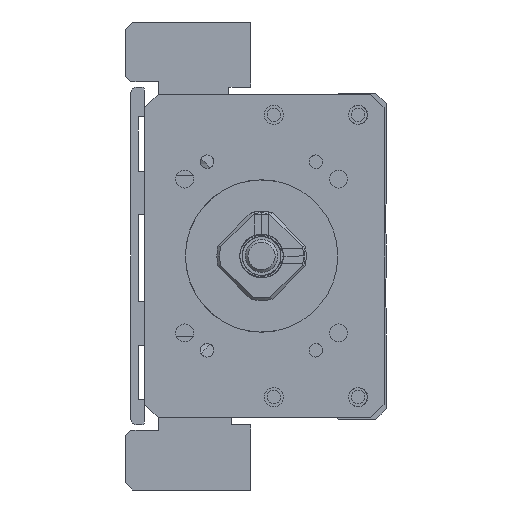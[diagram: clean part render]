
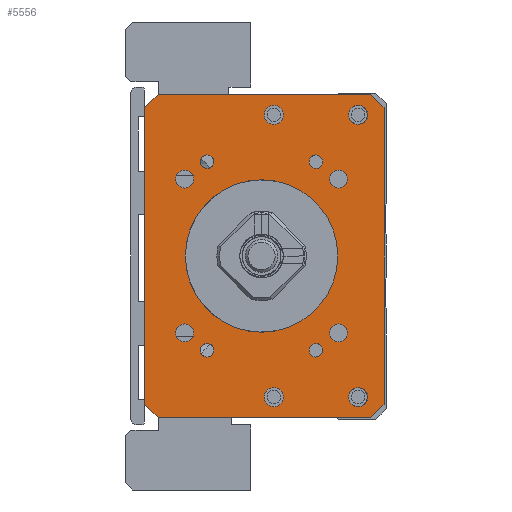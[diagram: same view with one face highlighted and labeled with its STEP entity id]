
A CAD part, left-side view. The second image highlights one B-rep face of the part: STEP entity #5556.
In plain terms, the highlighted planar face has unit normal (-1, 0, 0).
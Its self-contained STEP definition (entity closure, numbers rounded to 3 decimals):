
#5556=ADVANCED_FACE('',(#8873,#8874,#8875,#8876,#8877,#8878,#8879,#8880,
#8881,#8882,#8883,#8884,#8885,#8886),#6334,.F.);
#6334=PLANE('',#17718);
#6885=LINE('',#22967,#7902);
#6887=LINE('',#22991,#7904);
#6888=LINE('',#22993,#7905);
#6889=LINE('',#22995,#7906);
#6890=LINE('',#22997,#7907);
#6891=LINE('',#22999,#7908);
#6892=LINE('',#23001,#7909);
#6893=LINE('',#23003,#7910);
#7902=VECTOR('',#19271,1.);
#7904=VECTOR('',#19295,1.);
#7905=VECTOR('',#19296,1.);
#7906=VECTOR('',#19297,1.);
#7907=VECTOR('',#19298,1.);
#7908=VECTOR('',#19299,1.);
#7909=VECTOR('',#19300,1.);
#7910=VECTOR('',#19301,1.);
#8873=FACE_BOUND('',#9577,.T.);
#8874=FACE_BOUND('',#9578,.T.);
#8875=FACE_BOUND('',#9579,.T.);
#8876=FACE_BOUND('',#9580,.T.);
#8877=FACE_BOUND('',#9581,.T.);
#8878=FACE_BOUND('',#9582,.T.);
#8879=FACE_BOUND('',#9583,.T.);
#8880=FACE_BOUND('',#9584,.T.);
#8881=FACE_BOUND('',#9585,.T.);
#8882=FACE_BOUND('',#9586,.T.);
#8883=FACE_BOUND('',#9587,.T.);
#8884=FACE_BOUND('',#9588,.T.);
#8885=FACE_BOUND('',#9589,.T.);
#8886=FACE_BOUND('',#9590,.T.);
#9577=EDGE_LOOP('',(#10992));
#9578=EDGE_LOOP('',(#10993));
#9579=EDGE_LOOP('',(#10994));
#9580=EDGE_LOOP('',(#10995));
#9581=EDGE_LOOP('',(#10996));
#9582=EDGE_LOOP('',(#10997));
#9583=EDGE_LOOP('',(#10998));
#9584=EDGE_LOOP('',(#10999));
#9585=EDGE_LOOP('',(#11000));
#9586=EDGE_LOOP('',(#11001,#11002,#11003,#11004,#11005,#11006,#11007,#11008));
#9587=EDGE_LOOP('',(#11009));
#9588=EDGE_LOOP('',(#11010));
#9589=EDGE_LOOP('',(#11011));
#9590=EDGE_LOOP('',(#11012));
#10992=ORIENTED_EDGE('',*,*,#15549,.F.);
#10993=ORIENTED_EDGE('',*,*,#15550,.F.);
#10994=ORIENTED_EDGE('',*,*,#15551,.F.);
#10995=ORIENTED_EDGE('',*,*,#15552,.F.);
#10996=ORIENTED_EDGE('',*,*,#15553,.F.);
#10997=ORIENTED_EDGE('',*,*,#15554,.T.);
#10998=ORIENTED_EDGE('',*,*,#15555,.F.);
#10999=ORIENTED_EDGE('',*,*,#15556,.F.);
#11000=ORIENTED_EDGE('',*,*,#15557,.F.);
#11001=ORIENTED_EDGE('',*,*,#15546,.T.);
#11002=ORIENTED_EDGE('',*,*,#15558,.T.);
#11003=ORIENTED_EDGE('',*,*,#15559,.F.);
#11004=ORIENTED_EDGE('',*,*,#15560,.T.);
#11005=ORIENTED_EDGE('',*,*,#15561,.F.);
#11006=ORIENTED_EDGE('',*,*,#15562,.T.);
#11007=ORIENTED_EDGE('',*,*,#15563,.T.);
#11008=ORIENTED_EDGE('',*,*,#15564,.T.);
#11009=ORIENTED_EDGE('',*,*,#15565,.F.);
#11010=ORIENTED_EDGE('',*,*,#15566,.F.);
#11011=ORIENTED_EDGE('',*,*,#15567,.F.);
#11012=ORIENTED_EDGE('',*,*,#15526,.F.);
#14232=VERTEX_POINT('',#22906);
#14252=VERTEX_POINT('',#22966);
#14253=VERTEX_POINT('',#22968);
#14255=VERTEX_POINT('',#22974);
#14256=VERTEX_POINT('',#22976);
#14257=VERTEX_POINT('',#22978);
#14258=VERTEX_POINT('',#22980);
#14259=VERTEX_POINT('',#22982);
#14260=VERTEX_POINT('',#22984);
#14261=VERTEX_POINT('',#22986);
#14262=VERTEX_POINT('',#22988);
#14263=VERTEX_POINT('',#22990);
#14264=VERTEX_POINT('',#22992);
#14265=VERTEX_POINT('',#22994);
#14266=VERTEX_POINT('',#22996);
#14267=VERTEX_POINT('',#22998);
#14268=VERTEX_POINT('',#23000);
#14269=VERTEX_POINT('',#23002);
#14270=VERTEX_POINT('',#23005);
#14271=VERTEX_POINT('',#23007);
#14272=VERTEX_POINT('',#23009);
#15526=EDGE_CURVE('',#14232,#14232,#17138,.T.);
#15546=EDGE_CURVE('',#14253,#14252,#6885,.T.);
#15549=EDGE_CURVE('',#14255,#14255,#17147,.T.);
#15550=EDGE_CURVE('',#14256,#14256,#17148,.T.);
#15551=EDGE_CURVE('',#14257,#14257,#17149,.T.);
#15552=EDGE_CURVE('',#14258,#14258,#17150,.T.);
#15553=EDGE_CURVE('',#14259,#14259,#17151,.T.);
#15554=EDGE_CURVE('',#14260,#14260,#17152,.T.);
#15555=EDGE_CURVE('',#14261,#14261,#17153,.T.);
#15556=EDGE_CURVE('',#14262,#14262,#17154,.T.);
#15557=EDGE_CURVE('',#14263,#14263,#17155,.T.);
#15558=EDGE_CURVE('',#14252,#14264,#6887,.T.);
#15559=EDGE_CURVE('',#14265,#14264,#6888,.T.);
#15560=EDGE_CURVE('',#14265,#14266,#6889,.T.);
#15561=EDGE_CURVE('',#14267,#14266,#6890,.T.);
#15562=EDGE_CURVE('',#14267,#14268,#6891,.T.);
#15563=EDGE_CURVE('',#14268,#14269,#6892,.T.);
#15564=EDGE_CURVE('',#14269,#14253,#6893,.T.);
#15565=EDGE_CURVE('',#14270,#14270,#17156,.T.);
#15566=EDGE_CURVE('',#14271,#14271,#17157,.T.);
#15567=EDGE_CURVE('',#14272,#14272,#17158,.T.);
#17138=CIRCLE('',#17695,14.);
#17147=CIRCLE('',#17706,1.65);
#17148=CIRCLE('',#17707,1.65);
#17149=CIRCLE('',#17708,1.65);
#17150=CIRCLE('',#17709,1.65);
#17151=CIRCLE('',#17710,1.25);
#17152=CIRCLE('',#17711,1.75);
#17153=CIRCLE('',#17712,1.25);
#17154=CIRCLE('',#17713,1.75);
#17155=CIRCLE('',#17714,1.25);
#17156=CIRCLE('',#17715,1.75);
#17157=CIRCLE('',#17716,1.75);
#17158=CIRCLE('',#17717,1.25);
#17695=AXIS2_PLACEMENT_3D('',#22905,#19245,#19246);
#17706=AXIS2_PLACEMENT_3D('',#22973,#19277,#19278);
#17707=AXIS2_PLACEMENT_3D('',#22975,#19279,#19280);
#17708=AXIS2_PLACEMENT_3D('',#22977,#19281,#19282);
#17709=AXIS2_PLACEMENT_3D('',#22979,#19283,#19284);
#17710=AXIS2_PLACEMENT_3D('',#22981,#19285,#19286);
#17711=AXIS2_PLACEMENT_3D('',#22983,#19287,#19288);
#17712=AXIS2_PLACEMENT_3D('',#22985,#19289,#19290);
#17713=AXIS2_PLACEMENT_3D('',#22987,#19291,#19292);
#17714=AXIS2_PLACEMENT_3D('',#22989,#19293,#19294);
#17715=AXIS2_PLACEMENT_3D('',#23004,#19302,#19303);
#17716=AXIS2_PLACEMENT_3D('',#23006,#19304,#19305);
#17717=AXIS2_PLACEMENT_3D('',#23008,#19306,#19307);
#17718=AXIS2_PLACEMENT_3D('',#23010,#19308,#19309);
#19245=DIRECTION('',(-1.,0.,0.));
#19246=DIRECTION('',(0.,1.,0.));
#19271=DIRECTION('',(0.,0.,-1.));
#19277=DIRECTION('',(-1.,0.,0.));
#19278=DIRECTION('',(0.,0.,1.));
#19279=DIRECTION('',(-1.,0.,0.));
#19280=DIRECTION('',(0.,0.,1.));
#19281=DIRECTION('',(-1.,0.,0.));
#19282=DIRECTION('',(0.,0.,1.));
#19283=DIRECTION('',(-1.,0.,0.));
#19284=DIRECTION('',(0.,0.,1.));
#19285=DIRECTION('',(-1.,0.,0.));
#19286=DIRECTION('',(0.,1.,0.));
#19287=DIRECTION('',(1.,0.,0.));
#19288=DIRECTION('',(0.,0.,1.));
#19289=DIRECTION('',(-1.,0.,0.));
#19290=DIRECTION('',(0.,1.,0.));
#19291=DIRECTION('',(-1.,0.,0.));
#19292=DIRECTION('',(0.,0.,1.));
#19293=DIRECTION('',(-1.,0.,0.));
#19294=DIRECTION('',(0.,1.,0.));
#19295=DIRECTION('',(0.,-0.707,-0.707));
#19296=DIRECTION('',(0.,1.,0.));
#19297=DIRECTION('',(0.,-0.707,0.707));
#19298=DIRECTION('',(0.,0.,-1.));
#19299=DIRECTION('',(0.,0.707,0.707));
#19300=DIRECTION('',(0.,1.,0.));
#19301=DIRECTION('',(0.,0.707,-0.707));
#19302=DIRECTION('',(-1.,0.,0.));
#19303=DIRECTION('',(0.,0.,1.));
#19304=DIRECTION('',(-1.,0.,0.));
#19305=DIRECTION('',(0.,0.,1.));
#19306=DIRECTION('',(-1.,0.,0.));
#19307=DIRECTION('',(0.,1.,0.));
#19308=DIRECTION('',(1.,0.,0.));
#19309=DIRECTION('',(0.,1.,0.));
#22905=CARTESIAN_POINT('',(-211.,0.,0.));
#22906=CARTESIAN_POINT('',(-211.,14.,0.));
#22966=CARTESIAN_POINT('',(-211.,21.499,-27.25));
#22967=CARTESIAN_POINT('',(-211.,21.499,29.75));
#22968=CARTESIAN_POINT('',(-211.,21.499,27.25));
#22973=CARTESIAN_POINT('',(-211.,14.142,14.142));
#22974=CARTESIAN_POINT('',(-211.,14.142,15.792));
#22975=CARTESIAN_POINT('',(-211.,-14.142,14.142));
#22976=CARTESIAN_POINT('',(-211.,-14.142,15.792));
#22977=CARTESIAN_POINT('',(-211.,14.142,-14.142));
#22978=CARTESIAN_POINT('',(-211.,14.142,-12.492));
#22979=CARTESIAN_POINT('',(-211.,-14.142,-14.142));
#22980=CARTESIAN_POINT('',(-211.,-14.142,-12.492));
#22981=CARTESIAN_POINT('',(-211.,-10.,-17.321));
#22982=CARTESIAN_POINT('',(-211.,-8.75,-17.321));
#22983=CARTESIAN_POINT('',(-211.,-2.25,-25.936));
#22984=CARTESIAN_POINT('',(-211.,-2.25,-24.186));
#22985=CARTESIAN_POINT('',(-211.,10.,17.321));
#22986=CARTESIAN_POINT('',(-211.,11.25,17.321));
#22987=CARTESIAN_POINT('',(-211.,-2.25,25.936));
#22988=CARTESIAN_POINT('',(-211.,-2.25,27.686));
#22989=CARTESIAN_POINT('',(-211.,10.,-17.321));
#22990=CARTESIAN_POINT('',(-211.,11.25,-17.321));
#22991=CARTESIAN_POINT('',(-211.,18.999,-29.75));
#22992=CARTESIAN_POINT('',(-211.,18.999,-29.75));
#22993=CARTESIAN_POINT('',(-211.,-22.501,-29.75));
#22994=CARTESIAN_POINT('',(-211.,-20.001,-29.75));
#22995=CARTESIAN_POINT('',(-211.,-22.501,-27.25));
#22996=CARTESIAN_POINT('',(-211.,-22.501,-27.25));
#22997=CARTESIAN_POINT('',(-211.,-22.501,29.75));
#22998=CARTESIAN_POINT('',(-211.,-22.501,27.25));
#22999=CARTESIAN_POINT('',(-211.,-22.501,27.25));
#23000=CARTESIAN_POINT('',(-211.,-20.001,29.75));
#23001=CARTESIAN_POINT('',(-211.,-22.501,29.75));
#23002=CARTESIAN_POINT('',(-211.,18.999,29.75));
#23003=CARTESIAN_POINT('',(-211.,18.999,29.75));
#23004=CARTESIAN_POINT('',(-211.,-17.75,25.936));
#23005=CARTESIAN_POINT('',(-211.,-17.75,27.686));
#23006=CARTESIAN_POINT('',(-211.,-17.75,-25.936));
#23007=CARTESIAN_POINT('',(-211.,-17.75,-24.186));
#23008=CARTESIAN_POINT('',(-211.,-10.,17.321));
#23009=CARTESIAN_POINT('',(-211.,-8.75,17.321));
#23010=CARTESIAN_POINT('',(-211.,-22.501,29.75));
